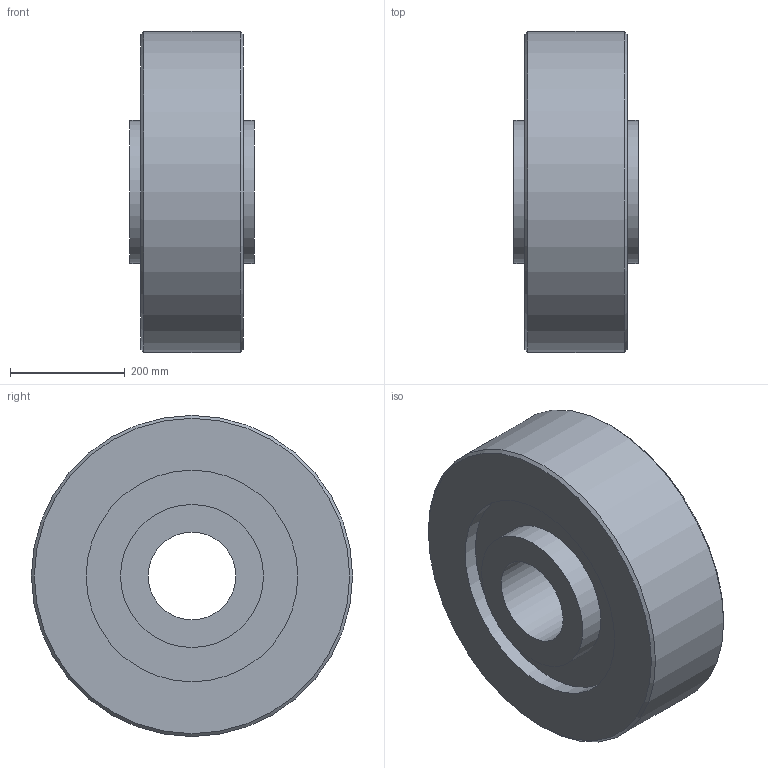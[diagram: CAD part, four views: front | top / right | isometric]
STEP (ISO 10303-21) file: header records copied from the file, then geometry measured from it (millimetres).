
FILE_DESCRIPTION((''),'1');
FILE_NAME('H:/図庫/国内ﾕﾆｯﾄ/ｶﾀﾛｸﾞ/ｸﾘｰﾌﾟﾌﾘｰ/ホームページ用ＣＡＤ図面/3D/update用', '2017-07-13T01:33:16',(''), (''), 'KCM Version 1.1.1442.0', 'Kubotek KeyCreator', '');
FILE_SCHEMA(('AUTOMOTIVE_DESIGN'));
Length unit declared in the file: inch
Bounding box: 215.9 x 558.8 x 558.8 mm (x, y, z)
Surface area: 987293.1 mm2 (no closed solid volume)
Topology: 0 solids, 14 shells, 14 faces, 36 edges, 28 vertices
Faces by surface type: cylinder 6, plane 6, cone 2
Full cylindrical faces by diameter (mm): 152.4 x1, 248.92 x2, 368.3 x2, 558.8 x1
Entity records: 482 total; most frequent: DIRECTION 94, CARTESIAN_POINT 79, ORIENTED_EDGE 44, AXIS2_PLACEMENT_3D 43, EDGE_CURVE 36, VERTEX_POINT 28, CIRCLE 28, EDGE_LOOP 20
